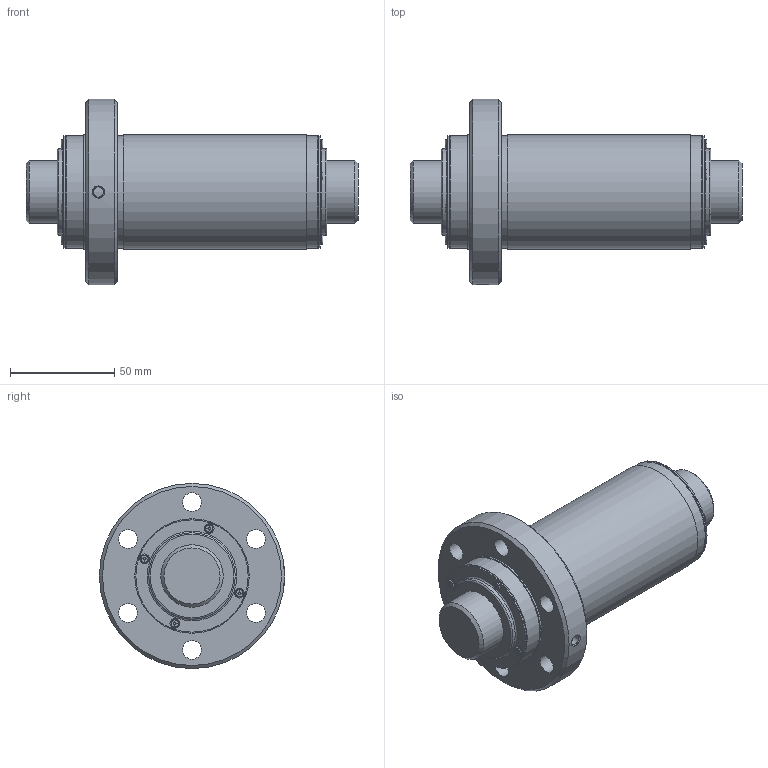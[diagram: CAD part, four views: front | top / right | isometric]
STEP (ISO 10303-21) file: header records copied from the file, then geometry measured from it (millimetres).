
FILE_DESCRIPTION(/* description */ ('STEP AP203'),/* implementation_level */ '2;1');
FILE_NAME(/* name */ 'CNF3060-6ZZ+159.6LC7T_000_rev',/* time_stamp */ '2025-06-11T06:44:42+02:00',/* author */ ('License CC BY-ND 4.0'),/* organization */ ('CADENAS'),/* preprocessor_version */ 'ST-DEVELOPER v19.3',/* originating_system */ 'PARTsolutions',/* authorisation */ ' ');
FILE_SCHEMA (('CONFIG_CONTROL_DESIGN'));
Length unit declared in the file: millimetre
Products named in the file (3): CNF3060-6ZZ+159.6LC7T_000_rev; CNF3060-60ZZ0 Shaft; CNF3060-6ZZ Nut
Assembly tree (2 placements, depth 2):
  CNF3060-6ZZ+159.6LC7T_000_rev
    CNF3060-60ZZ0 Shaft
    CNF3060-6ZZ Nut
Bounding box: 159.6 x 89 x 89 mm (x, y, z)
Volume: 371882.9 mm3; surface area: 65287.7 mm2
Topology: 2 solids, 2 shells, 203 faces, 504 edges, 330 vertices
Faces by surface type: plane 125, cylinder 59, torus 12, cone 7
Full cylindrical faces by diameter (mm): 4.54 x8, 4.917 x1, 9 x6, 30 x2, 41.6 x2, 54 x5, 55 x2, 89 x1
Entity records: 5893 total; most frequent: CARTESIAN_POINT 1012, DIRECTION 1002, ORIENTED_EDGE 914, EDGE_CURVE 457, AXIS2_PLACEMENT_3D 341, VERTEX_POINT 329, LINE 320, VECTOR 320
